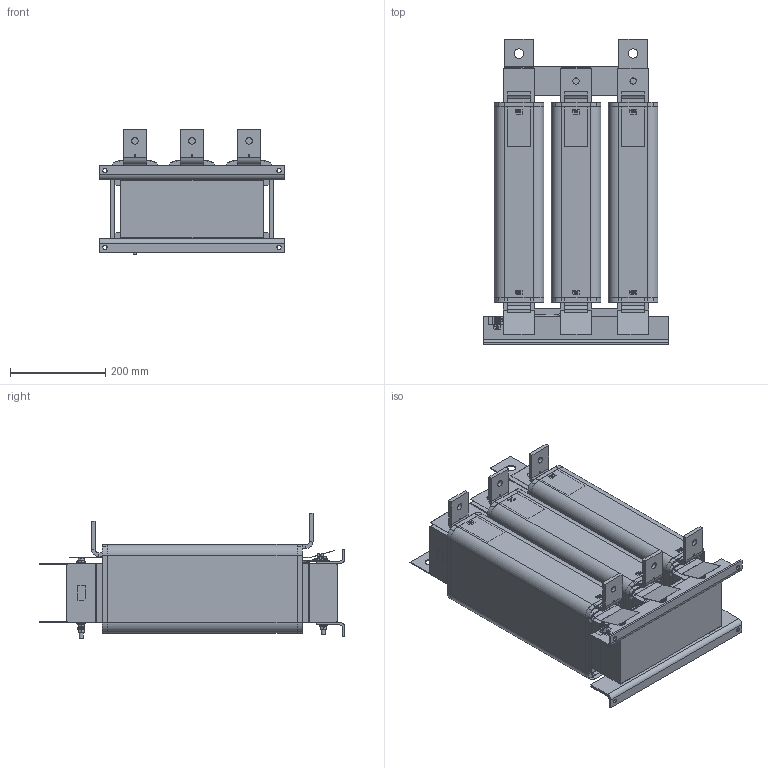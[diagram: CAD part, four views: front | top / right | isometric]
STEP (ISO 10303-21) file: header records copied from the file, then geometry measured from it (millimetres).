
FILE_DESCRIPTION(/* description */ ('raw material description'),/* implementation_level */ '2;1');
FILE_NAME(/* name */ 'C:\Users\Erika.Jenzer\Desktop\Neuer Ordner\FN5060HV-1200-99.stp',/* time_stamp */ '2019-11-18T15:52:45+01:00',/* author */ ('erika.jenzer'),/* organization */ ('Schaffner EMV AG'),/* preprocessor_version */ 'ST-DEVELOPER v16.5',/* originating_system */ 'Autodesk Inventor 2017',/* authorisation */ '');
FILE_SCHEMA (('AUTOMOTIVE_DESIGN { 1 0 10303 214 3 1 1 }'));
Products named in the file (1): FN5060HV-1200-99
Bounding box: 390 x 642.07 x 264.59 mm (x, y, z)
Volume: 24659646.1 mm3; surface area: 3574706.6 mm2
Topology: 39 solids, 64 shells, 1970 faces, 5089 edges, 3327 vertices
Faces by surface type: plane 1312, cylinder 396, cone 132, bspline 111, torus 18, sphere 1
Full cylindrical faces by diameter (mm): 0.01 x2, 1 x2, 2 x2, 2.5 x1, 2.8 x11, 3 x1, 3.4 x4, 7.78 x2, 8 x13, 8.2 x6, 8.4 x13, 9 x4, 9.9 x5, 10.5 x3, 11 x10, 11.4 x1, 13 x1, 13.5 x6, 16 x11, 18 x5, 20 x4
Entity records: 64747 total; most frequent: CARTESIAN_POINT 15863, ORIENTED_EDGE 9740, DIRECTION 9230, EDGE_CURVE 4863, LINE 3442, VECTOR 3442, VERTEX_POINT 3271, AXIS2_PLACEMENT_3D 2894
